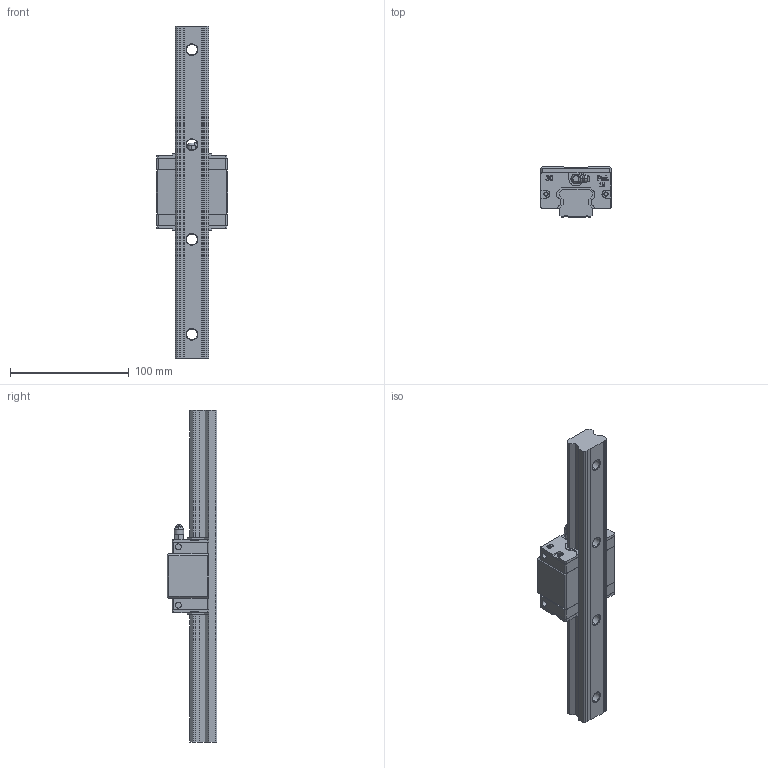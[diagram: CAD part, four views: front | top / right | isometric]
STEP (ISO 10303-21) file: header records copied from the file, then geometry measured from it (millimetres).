
FILE_DESCRIPTION (( 'STEP AP203' ), '1' );
FILE_NAME ('BGCS30BS.STEP', '2025-10-20T06:50:00', ( '' ), ( '' ), 'SwSTEP 2.0', 'SolidWorks 2020', '' );
FILE_SCHEMA (( 'CONFIG_CONTROL_DESIGN' ));
Length unit declared in the file: millimetre
Products named in the file (5): BGCS30BS; BG30端防塵; BGXS30BS; NGX02; BGR30-L280
Assembly tree (5 placements, depth 2):
  BGCS30BS
    BGR30-L280
    BGXS30BS
    BG30端防塵  x2
    NGX02
Bounding box: 59.95 x 42 x 280 mm (x, y, z)
Volume: 245967.7 mm3; surface area: 64055.2 mm2
Topology: 7 solids, 7 shells, 711 faces, 1963 edges, 1313 vertices
Faces by surface type: plane 480, cylinder 128, bspline 66, cone 33, torus 4
Entity records: 18788 total; most frequent: CARTESIAN_POINT 6153, ORIENTED_EDGE 2650, DIRECTION 2257, EDGE_CURVE 1325, VERTEX_POINT 881, VECTOR 811, LINE 811, AXIS2_PLACEMENT_3D 723
